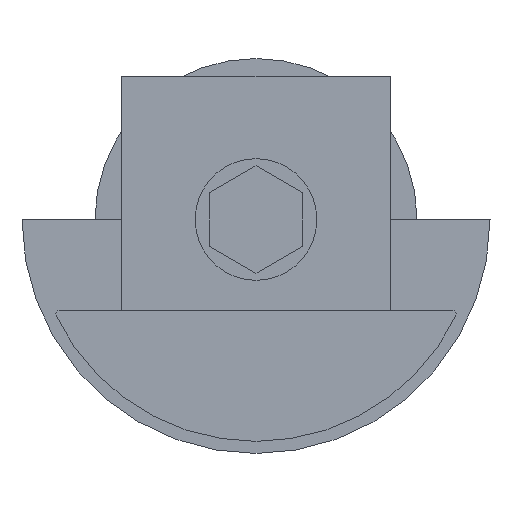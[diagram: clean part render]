
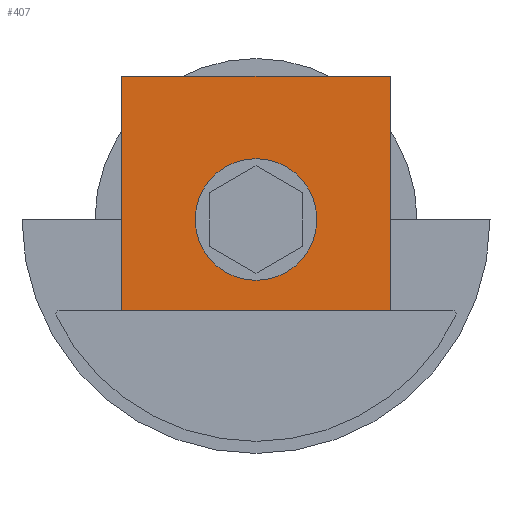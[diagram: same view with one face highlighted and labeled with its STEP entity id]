
A CAD part, left-side view. The second image highlights one B-rep face of the part: STEP entity #407.
In plain terms, the highlighted planar face has unit normal (-1, 0, 0).
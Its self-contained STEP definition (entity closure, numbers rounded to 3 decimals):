
#7 = VECTOR ( 'NONE', #226, 1000. ) ;
#26 = CARTESIAN_POINT ( 'NONE',  ( -308., -60.696, 52.7 ) ) ;
#30 = EDGE_CURVE ( 'NONE', #1102, #1609, #1750, .T. ) ;
#46 = DIRECTION ( 'NONE',  ( 0., -1., 0. ) ) ;
#50 = DIRECTION ( 'NONE',  ( -1., 0., 0. ) ) ;
#53 = CARTESIAN_POINT ( 'NONE',  ( -308., -13.95, 20. ) ) ;
#65 = CARTESIAN_POINT ( 'NONE',  ( -308., -60.696, 20. ) ) ;
#68 = AXIS2_PLACEMENT_3D ( 'NONE', #808, #50, #1872 ) ;
#210 = PLANE ( 'NONE',  #803 ) ;
#215 = DIRECTION ( 'NONE',  ( 0., 0., -1. ) ) ;
#226 = DIRECTION ( 'NONE',  ( 0., 0., 1. ) ) ;
#260 = CARTESIAN_POINT ( 'NONE',  ( -308., -13.95, 20. ) ) ;
#346 = EDGE_CURVE ( 'NONE', #1476, #1308, #984, .T. ) ;
#351 = CARTESIAN_POINT ( 'NONE',  ( -308., -13.95, 52.7 ) ) ;
#378 = DIRECTION ( 'NONE',  ( 0., 1., 0. ) ) ;
#379 = DIRECTION ( 'NONE',  ( 0., 0., -1. ) ) ;
#407 = ADVANCED_FACE ( 'NONE', ( #1565, #1119 ), #210, .F. ) ;
#466 = EDGE_LOOP ( 'NONE', ( #502, #1586, #1530, #1632 ) ) ;
#502 = ORIENTED_EDGE ( 'NONE', *, *, #346, .T. ) ;
#513 = CARTESIAN_POINT ( 'NONE',  ( -308., -32.7, 36.7 ) ) ;
#531 = DIRECTION ( 'NONE',  ( 0., 1., 0. ) ) ;
#638 = CIRCLE ( 'NONE', #68, 4. ) ;
#678 = VECTOR ( 'NONE', #215, 1000. ) ;
#787 = EDGE_CURVE ( 'NONE', #1609, #1102, #638, .T. ) ;
#803 = AXIS2_PLACEMENT_3D ( 'NONE', #1693, #814, #46 ) ;
#808 = CARTESIAN_POINT ( 'NONE',  ( -308., -32.7, 32.7 ) ) ;
#814 = DIRECTION ( 'NONE',  ( 1., 0., 0. ) ) ;
#984 = LINE ( 'NONE', #26, #1020 ) ;
#1020 = VECTOR ( 'NONE', #531, 1000. ) ;
#1048 = EDGE_CURVE ( 'NONE', #1101, #1826, #1410, .T. ) ;
#1101 = VERTEX_POINT ( 'NONE', #1626 ) ;
#1102 = VERTEX_POINT ( 'NONE', #1605 ) ;
#1119 = FACE_OUTER_BOUND ( 'NONE', #466, .T. ) ;
#1133 = CARTESIAN_POINT ( 'NONE',  ( -308., -32.7, 32.7 ) ) ;
#1149 = VECTOR ( 'NONE', #378, 1000. ) ;
#1220 = EDGE_CURVE ( 'NONE', #1826, #1308, #1440, .T. ) ;
#1263 = LINE ( 'NONE', #1863, #678 ) ;
#1298 = AXIS2_PLACEMENT_3D ( 'NONE', #1133, #1894, #379 ) ;
#1308 = VERTEX_POINT ( 'NONE', #351 ) ;
#1410 = LINE ( 'NONE', #65, #1149 ) ;
#1440 = LINE ( 'NONE', #53, #7 ) ;
#1476 = VERTEX_POINT ( 'NONE', #1958 ) ;
#1484 = ORIENTED_EDGE ( 'NONE', *, *, #30, .F. ) ;
#1530 = ORIENTED_EDGE ( 'NONE', *, *, #1048, .F. ) ;
#1565 = FACE_BOUND ( 'NONE', #1963, .T. ) ;
#1586 = ORIENTED_EDGE ( 'NONE', *, *, #1220, .F. ) ;
#1605 = CARTESIAN_POINT ( 'NONE',  ( -308., -32.7, 28.7 ) ) ;
#1609 = VERTEX_POINT ( 'NONE', #513 ) ;
#1626 = CARTESIAN_POINT ( 'NONE',  ( -308., -51.45, 20. ) ) ;
#1632 = ORIENTED_EDGE ( 'NONE', *, *, #1659, .F. ) ;
#1659 = EDGE_CURVE ( 'NONE', #1476, #1101, #1263, .T. ) ;
#1693 = CARTESIAN_POINT ( 'NONE',  ( -308., -60.696, 52.7 ) ) ;
#1700 = ORIENTED_EDGE ( 'NONE', *, *, #787, .F. ) ;
#1750 = CIRCLE ( 'NONE', #1298, 4. ) ;
#1826 = VERTEX_POINT ( 'NONE', #260 ) ;
#1863 = CARTESIAN_POINT ( 'NONE',  ( -308., -51.45, 52.7 ) ) ;
#1872 = DIRECTION ( 'NONE',  ( 0., 0., -1. ) ) ;
#1894 = DIRECTION ( 'NONE',  ( -1., 0., 0. ) ) ;
#1958 = CARTESIAN_POINT ( 'NONE',  ( -308., -51.45, 52.7 ) ) ;
#1963 = EDGE_LOOP ( 'NONE', ( #1484, #1700 ) ) ;
